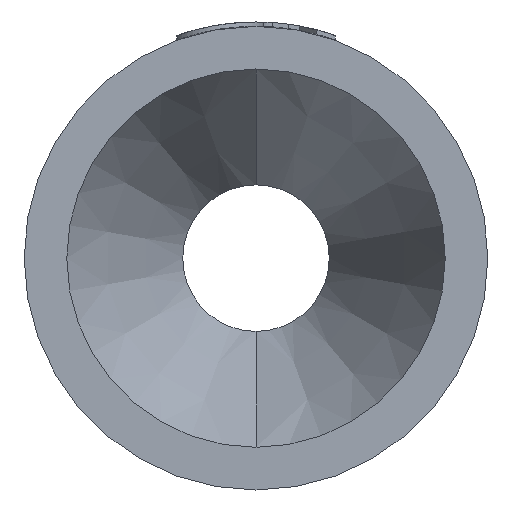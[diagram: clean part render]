
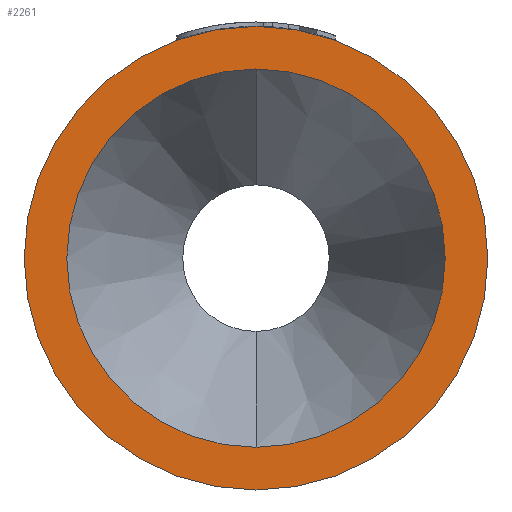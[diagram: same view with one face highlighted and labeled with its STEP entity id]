
A CAD part, left-side view. The second image highlights one B-rep face of the part: STEP entity #2261.
In plain terms, the highlighted planar face has unit normal (-1, 0, 0).
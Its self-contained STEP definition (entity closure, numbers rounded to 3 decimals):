
#41 = EDGE_CURVE ( 'NONE', #1309, #1163, #58, .T. ) ;
#58 = CIRCLE ( 'NONE', #1250, 20.4 ) ;
#64 = DIRECTION ( 'NONE',  ( 0., 0., 1. ) ) ;
#69 = DIRECTION ( 'NONE',  ( -1., 0., 0. ) ) ;
#74 = CARTESIAN_POINT ( 'NONE',  ( 0., 0., 0. ) ) ;
#180 = EDGE_CURVE ( 'NONE', #1323, #1256, #2814, .T. ) ;
#208 = DIRECTION ( 'NONE',  ( 0., 0., 1. ) ) ;
#236 = AXIS2_PLACEMENT_3D ( 'NONE', #1572, #1488, #1409 ) ;
#272 = DIRECTION ( 'NONE',  ( -1., 0., 0. ) ) ;
#291 = EDGE_CURVE ( 'NONE', #1163, #1309, #2875, .T. ) ;
#292 = CARTESIAN_POINT ( 'NONE',  ( 0., 0., 0. ) ) ;
#406 = AXIS2_PLACEMENT_3D ( 'NONE', #74, #69, #64 ) ;
#1061 = FACE_OUTER_BOUND ( 'NONE', #1215, .T. ) ;
#1083 = FACE_BOUND ( 'NONE', #1258, .T. ) ;
#1145 = PLANE ( 'NONE',  #1407 ) ;
#1163 = VERTEX_POINT ( 'NONE', #3185 ) ;
#1215 = EDGE_LOOP ( 'NONE', ( #2451, #2273 ) ) ;
#1250 = AXIS2_PLACEMENT_3D ( 'NONE', #292, #272, #208 ) ;
#1256 = VERTEX_POINT ( 'NONE', #2693 ) ;
#1258 = EDGE_LOOP ( 'NONE', ( #2025, #2638 ) ) ;
#1309 = VERTEX_POINT ( 'NONE', #2373 ) ;
#1323 = VERTEX_POINT ( 'NONE', #2435 ) ;
#1407 = AXIS2_PLACEMENT_3D ( 'NONE', #1570, #1539, #1426 ) ;
#1409 = DIRECTION ( 'NONE',  ( 0., 0., 1. ) ) ;
#1426 = DIRECTION ( 'NONE',  ( 0., 0., -1. ) ) ;
#1485 = CIRCLE ( 'NONE', #3042, 25. ) ;
#1488 = DIRECTION ( 'NONE',  ( -1., 0., 0. ) ) ;
#1539 = DIRECTION ( 'NONE',  ( 1., 0., 0. ) ) ;
#1570 = CARTESIAN_POINT ( 'NONE',  ( 0., 20.4, 0. ) ) ;
#1572 = CARTESIAN_POINT ( 'NONE',  ( 0., 0., 0. ) ) ;
#2025 = ORIENTED_EDGE ( 'NONE', *, *, #41, .F. ) ;
#2261 = ADVANCED_FACE ( 'NONE', ( #1083, #1061 ), #1145, .F. ) ;
#2273 = ORIENTED_EDGE ( 'NONE', *, *, #180, .T. ) ;
#2373 = CARTESIAN_POINT ( 'NONE',  ( 0., 0., 20.4 ) ) ;
#2435 = CARTESIAN_POINT ( 'NONE',  ( 0., 0., -25. ) ) ;
#2451 = ORIENTED_EDGE ( 'NONE', *, *, #3166, .T. ) ;
#2638 = ORIENTED_EDGE ( 'NONE', *, *, #291, .F. ) ;
#2693 = CARTESIAN_POINT ( 'NONE',  ( 0., 0., 25. ) ) ;
#2759 = DIRECTION ( 'NONE',  ( 0., 0., 1. ) ) ;
#2772 = DIRECTION ( 'NONE',  ( -1., 0., 0. ) ) ;
#2792 = CARTESIAN_POINT ( 'NONE',  ( 0., 0., 0. ) ) ;
#2814 = CIRCLE ( 'NONE', #406, 25. ) ;
#2875 = CIRCLE ( 'NONE', #236, 20.4 ) ;
#3042 = AXIS2_PLACEMENT_3D ( 'NONE', #2792, #2772, #2759 ) ;
#3166 = EDGE_CURVE ( 'NONE', #1256, #1323, #1485, .T. ) ;
#3185 = CARTESIAN_POINT ( 'NONE',  ( 0., 0., -20.4 ) ) ;
